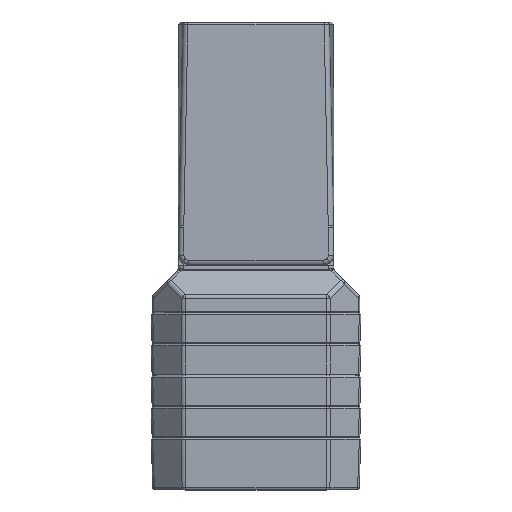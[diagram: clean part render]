
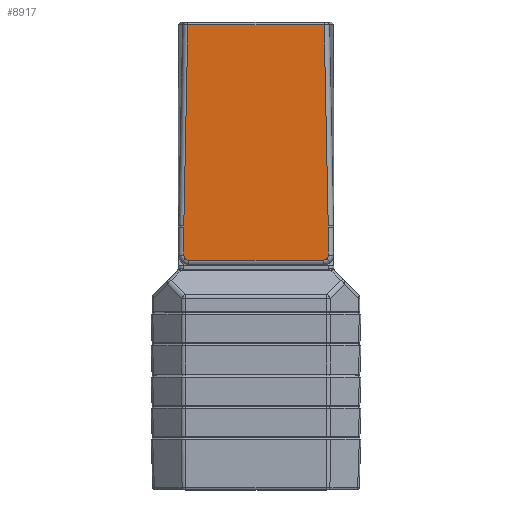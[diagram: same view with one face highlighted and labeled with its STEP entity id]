
A CAD part, top view. The second image highlights one B-rep face of the part: STEP entity #8917.
In plain terms, the highlighted planar face has unit normal (0, 0, 1) as drawn and (0, 1, 0) by its records, which use the part's own axes.
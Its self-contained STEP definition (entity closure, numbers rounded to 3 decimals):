
#218 = ORIENTED_EDGE ( 'NONE', *, *, #2979, .T. ) ;
#322 =( BOUNDED_CURVE ( )  B_SPLINE_CURVE ( 3, ( #5245, #10329, #15432, #7904 ),
 .UNSPECIFIED., .F., .F. ) 
 B_SPLINE_CURVE_WITH_KNOTS ( ( 4, 4 ),
 ( 5.497, 6.283 ),
 .UNSPECIFIED. ) 
 CURVE ( )  GEOMETRIC_REPRESENTATION_ITEM ( )  RATIONAL_B_SPLINE_CURVE ( ( 1., 0.949, 0.949, 1. ) ) 
 REPRESENTATION_ITEM ( '' )  );
#681 = CARTESIAN_POINT ( 'NONE',  ( 34.761, 37.5, -11.73 ) ) ;
#811 = CARTESIAN_POINT ( 'NONE',  ( -34.761, 37.5, -11.73 ) ) ;
#926 = DIRECTION ( 'NONE',  ( 0., -1., 0. ) ) ;
#1044 = CARTESIAN_POINT ( 'NONE',  ( 32.295, 37.5, 4.789 ) ) ;
#1380 = VERTEX_POINT ( 'NONE', #2136 ) ;
#1483 = EDGE_CURVE ( 'NONE', #15308, #3295, #15015, .T. ) ;
#1596 = EDGE_CURVE ( 'NONE', #1380, #3866, #7916, .T. ) ;
#1742 = VERTEX_POINT ( 'NONE', #8236 ) ;
#1805 = VECTOR ( 'NONE', #3571, 1000. ) ;
#2136 = CARTESIAN_POINT ( 'NONE',  ( -32.805, 37.5, -108.47 ) ) ;
#2884 = ORIENTED_EDGE ( 'NONE', *, *, #1596, .T. ) ;
#2979 = EDGE_CURVE ( 'NONE', #3866, #5901, #15574, .T. ) ;
#3295 = VERTEX_POINT ( 'NONE', #8067 ) ;
#3493 = LINE ( 'NONE', #4841, #3704 ) ;
#3547 = CARTESIAN_POINT ( 'NONE',  ( 32.968, 37.5, 4.789 ) ) ;
#3571 = DIRECTION ( 'NONE',  ( -0.002, 0., -1. ) ) ;
#3704 = VECTOR ( 'NONE', #9915, 1000. ) ;
#3790 = VERTEX_POINT ( 'NONE', #16222 ) ;
#3866 = VERTEX_POINT ( 'NONE', #12554 ) ;
#3925 = EDGE_CURVE ( 'NONE', #14097, #12152, #11416, .T. ) ;
#4022 = ORIENTED_EDGE ( 'NONE', *, *, #11048, .T. ) ;
#4365 = DIRECTION ( 'NONE',  ( -0.02, 0., -1. ) ) ;
#4541 = CARTESIAN_POINT ( 'NONE',  ( 37.5, 37.5, 4.789 ) ) ;
#4616 = AXIS2_PLACEMENT_3D ( 'NONE', #13893, #926, #5943 ) ;
#4638 = EDGE_CURVE ( 'NONE', #7886, #1380, #12591, .T. ) ;
#4716 = CARTESIAN_POINT ( 'NONE',  ( 34.795, 37.5, 2.958 ) ) ;
#4841 = CARTESIAN_POINT ( 'NONE',  ( -34.805, 37.5, 7.342 ) ) ;
#4946 = CARTESIAN_POINT ( 'NONE',  ( -32.968, 37.5, 4.789 ) ) ;
#5245 = CARTESIAN_POINT ( 'NONE',  ( -34.794, 37.5, 2.285 ) ) ;
#5617 = CARTESIAN_POINT ( 'NONE',  ( 34.755, 37.5, -12.016 ) ) ;
#5901 = VERTEX_POINT ( 'NONE', #13267 ) ;
#5943 = DIRECTION ( 'NONE',  ( 0., 0., -1. ) ) ;
#6098 = ORIENTED_EDGE ( 'NONE', *, *, #12380, .T. ) ;
#6504 = VECTOR ( 'NONE', #15910, 1000. ) ;
#6509 = VECTOR ( 'NONE', #13679, 1000. ) ;
#6596 = ORIENTED_EDGE ( 'NONE', *, *, #9864, .T. ) ;
#6923 = CARTESIAN_POINT ( 'NONE',  ( 34.064, 37.5, 4.055 ) ) ;
#7387 = ORIENTED_EDGE ( 'NONE', *, *, #1483, .T. ) ;
#7477 = ORIENTED_EDGE ( 'NONE', *, *, #4638, .T. ) ;
#7826 = CARTESIAN_POINT ( 'NONE',  ( -35.12, 37.5, 6.032 ) ) ;
#7886 = VERTEX_POINT ( 'NONE', #14291 ) ;
#7904 = CARTESIAN_POINT ( 'NONE',  ( -34.064, 37.5, 4.055 ) ) ;
#7916 = LINE ( 'NONE', #7826, #15190 ) ;
#8067 = CARTESIAN_POINT ( 'NONE',  ( 34.765, 37.5, -11.16 ) ) ;
#8207 = FACE_OUTER_BOUND ( 'NONE', #11628, .T. ) ;
#8236 = CARTESIAN_POINT ( 'NONE',  ( 34.064, 37.5, 4.055 ) ) ;
#8292 = CARTESIAN_POINT ( 'NONE',  ( 34.765, 37.5, -11.16 ) ) ;
#8308 = EDGE_CURVE ( 'NONE', #3790, #14097, #322, .T. ) ;
#8456 = CARTESIAN_POINT ( 'NONE',  ( -34.064, 37.5, 4.055 ) ) ;
#8516 = EDGE_CURVE ( 'NONE', #1742, #15308, #15912, .T. ) ;
#8590 = ORIENTED_EDGE ( 'NONE', *, *, #3925, .T. ) ;
#8917 = ADVANCED_FACE ( 'NONE', ( #8207 ), #13964, .F. ) ;
#9004 = ORIENTED_EDGE ( 'NONE', *, *, #8516, .T. ) ;
#9210 = CARTESIAN_POINT ( 'NONE',  ( 32.785, 37.5, -109.434 ) ) ;
#9864 = EDGE_CURVE ( 'NONE', #12152, #13864, #10807, .T. ) ;
#9915 = DIRECTION ( 'NONE',  ( -0.002, 0., 1. ) ) ;
#10017 = ORIENTED_EDGE ( 'NONE', *, *, #14497, .T. ) ;
#10037 =( BOUNDED_CURVE ( )  B_SPLINE_CURVE ( 3, ( #1044, #3547, #14905, #6923 ),
 .UNSPECIFIED., .F., .F. ) 
 B_SPLINE_CURVE_WITH_KNOTS ( ( 4, 4 ),
 ( 5.497, 6.283 ),
 .UNSPECIFIED. ) 
 CURVE ( )  GEOMETRIC_REPRESENTATION_ITEM ( )  RATIONAL_B_SPLINE_CURVE ( ( 1., 0.949, 0.949, 1. ) ) 
 REPRESENTATION_ITEM ( '' )  );
#10318 = CARTESIAN_POINT ( 'NONE',  ( 32.295, 37.5, 4.789 ) ) ;
#10329 = CARTESIAN_POINT ( 'NONE',  ( -34.795, 37.5, 2.958 ) ) ;
#10583 = ORIENTED_EDGE ( 'NONE', *, *, #8308, .T. ) ;
#10807 = LINE ( 'NONE', #4541, #6504 ) ;
#10881 = CARTESIAN_POINT ( 'NONE',  ( 34.755, 37.5, -12.016 ) ) ;
#10935 = CARTESIAN_POINT ( 'NONE',  ( -34.755, 37.5, -12.016 ) ) ;
#11018 = CARTESIAN_POINT ( 'NONE',  ( -34.765, 37.5, -11.16 ) ) ;
#11048 = EDGE_CURVE ( 'NONE', #3295, #12403, #11317, .T. ) ;
#11317 =( BOUNDED_CURVE ( )  B_SPLINE_CURVE ( 3, ( #8292, #14800, #681, #10881 ),
 .UNSPECIFIED., .F., .F. ) 
 B_SPLINE_CURVE_WITH_KNOTS ( ( 4, 4 ),
 ( 3.133, 3.151 ),
 .UNSPECIFIED. ) 
 CURVE ( )  GEOMETRIC_REPRESENTATION_ITEM ( )  RATIONAL_B_SPLINE_CURVE ( ( 1., 1., 1., 1. ) ) 
 REPRESENTATION_ITEM ( '' )  );
#11416 =( BOUNDED_CURVE ( )  B_SPLINE_CURVE ( 3, ( #11536, #15221, #4946, #15129 ),
 .UNSPECIFIED., .F., .F. ) 
 B_SPLINE_CURVE_WITH_KNOTS ( ( 4, 4 ),
 ( 0., 0.786 ),
 .UNSPECIFIED. ) 
 CURVE ( )  GEOMETRIC_REPRESENTATION_ITEM ( )  RATIONAL_B_SPLINE_CURVE ( ( 1., 0.949, 0.949, 1. ) ) 
 REPRESENTATION_ITEM ( '' )  );
#11536 = CARTESIAN_POINT ( 'NONE',  ( -34.064, 37.5, 4.055 ) ) ;
#11628 = EDGE_LOOP ( 'NONE', ( #6098, #7477, #2884, #218, #10017, #10583, #8590, #6596, #14632, #9004, #7387, #4022 ) ) ;
#11716 = EDGE_CURVE ( 'NONE', #13864, #1742, #10037, .T. ) ;
#11930 = VECTOR ( 'NONE', #4365, 1000. ) ;
#12152 = VERTEX_POINT ( 'NONE', #12228 ) ;
#12228 = CARTESIAN_POINT ( 'NONE',  ( -32.295, 37.5, 4.789 ) ) ;
#12380 = EDGE_CURVE ( 'NONE', #12403, #7886, #14551, .T. ) ;
#12403 = VERTEX_POINT ( 'NONE', #5617 ) ;
#12554 = CARTESIAN_POINT ( 'NONE',  ( -34.755, 37.5, -12.016 ) ) ;
#12581 = CARTESIAN_POINT ( 'NONE',  ( 34.064, 37.5, 4.055 ) ) ;
#12591 = LINE ( 'NONE', #13996, #6509 ) ;
#12671 = CARTESIAN_POINT ( 'NONE',  ( 34.794, 37.5, 2.285 ) ) ;
#12751 = CARTESIAN_POINT ( 'NONE',  ( 34.794, 37.5, 2.285 ) ) ;
#12866 = DIRECTION ( 'NONE',  ( -0.02, 0., 1. ) ) ;
#13267 = CARTESIAN_POINT ( 'NONE',  ( -34.765, 37.5, -11.16 ) ) ;
#13379 = CARTESIAN_POINT ( 'NONE',  ( -34.764, 37.5, -11.445 ) ) ;
#13664 = CARTESIAN_POINT ( 'NONE',  ( 34.539, 37.5, 3.579 ) ) ;
#13679 = DIRECTION ( 'NONE',  ( -1., 0., 0. ) ) ;
#13864 = VERTEX_POINT ( 'NONE', #10318 ) ;
#13893 = CARTESIAN_POINT ( 'NONE',  ( 37.5, 37.5, 7.5 ) ) ;
#13964 = PLANE ( 'NONE',  #4616 ) ;
#13996 = CARTESIAN_POINT ( 'NONE',  ( 37.5, 37.5, -108.47 ) ) ;
#14097 = VERTEX_POINT ( 'NONE', #8456 ) ;
#14291 = CARTESIAN_POINT ( 'NONE',  ( 32.805, 37.5, -108.47 ) ) ;
#14497 = EDGE_CURVE ( 'NONE', #5901, #3790, #3493, .T. ) ;
#14551 = LINE ( 'NONE', #9210, #11930 ) ;
#14632 = ORIENTED_EDGE ( 'NONE', *, *, #11716, .T. ) ;
#14800 = CARTESIAN_POINT ( 'NONE',  ( 34.764, 37.5, -11.445 ) ) ;
#14844 = CARTESIAN_POINT ( 'NONE',  ( 34.765, 37.5, -11.159 ) ) ;
#14905 = CARTESIAN_POINT ( 'NONE',  ( 33.589, 37.5, 4.531 ) ) ;
#15015 = LINE ( 'NONE', #14844, #1805 ) ;
#15129 = CARTESIAN_POINT ( 'NONE',  ( -32.295, 37.5, 4.789 ) ) ;
#15190 = VECTOR ( 'NONE', #12866, 1000. ) ;
#15221 = CARTESIAN_POINT ( 'NONE',  ( -33.589, 37.5, 4.531 ) ) ;
#15308 = VERTEX_POINT ( 'NONE', #12751 ) ;
#15432 = CARTESIAN_POINT ( 'NONE',  ( -34.539, 37.5, 3.579 ) ) ;
#15574 =( BOUNDED_CURVE ( )  B_SPLINE_CURVE ( 3, ( #10935, #811, #13379, #11018 ),
 .UNSPECIFIED., .F., .F. ) 
 B_SPLINE_CURVE_WITH_KNOTS ( ( 4, 4 ),
 ( 3.133, 3.151 ),
 .UNSPECIFIED. ) 
 CURVE ( )  GEOMETRIC_REPRESENTATION_ITEM ( )  RATIONAL_B_SPLINE_CURVE ( ( 1., 1., 1., 1. ) ) 
 REPRESENTATION_ITEM ( '' )  );
#15910 = DIRECTION ( 'NONE',  ( 1., 0., 0. ) ) ;
#15912 =( BOUNDED_CURVE ( )  B_SPLINE_CURVE ( 3, ( #12581, #13664, #4716, #12671 ),
 .UNSPECIFIED., .F., .F. ) 
 B_SPLINE_CURVE_WITH_KNOTS ( ( 4, 4 ),
 ( 0., 0.786 ),
 .UNSPECIFIED. ) 
 CURVE ( )  GEOMETRIC_REPRESENTATION_ITEM ( )  RATIONAL_B_SPLINE_CURVE ( ( 1., 0.949, 0.949, 1. ) ) 
 REPRESENTATION_ITEM ( '' )  );
#16222 = CARTESIAN_POINT ( 'NONE',  ( -34.794, 37.5, 2.285 ) ) ;
